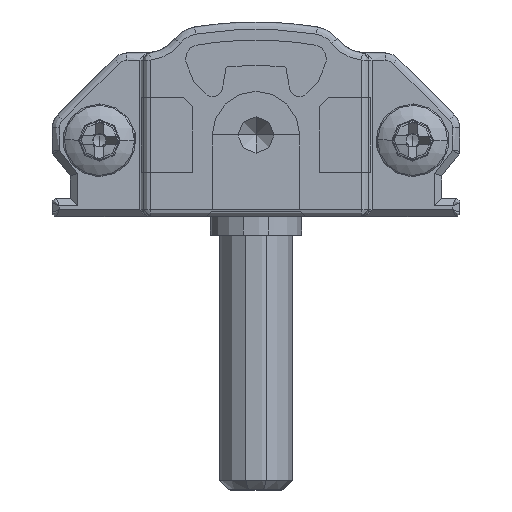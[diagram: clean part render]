
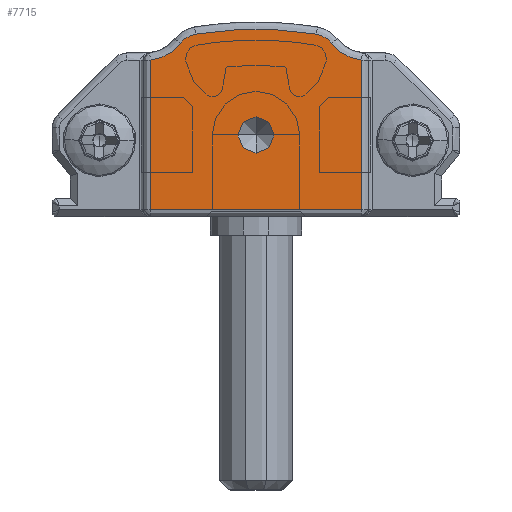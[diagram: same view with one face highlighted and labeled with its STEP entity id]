
A CAD part, front view. The second image highlights one B-rep face of the part: STEP entity #7715.
In plain terms, the highlighted planar face has unit normal (0, -1, 0).
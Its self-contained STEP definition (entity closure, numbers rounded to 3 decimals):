
#437 = CARTESIAN_POINT ( 'NONE',  ( 5.4, -15., 0.4 ) ) ;
#535 = ORIENTED_EDGE ( 'NONE', *, *, #30667, .T. ) ;
#1572 = EDGE_CURVE ( 'NONE', #2760, #27980, #26217, .T. ) ;
#1913 = EDGE_LOOP ( 'NONE', ( #20657, #30931 ) ) ;
#2151 = VECTOR ( 'NONE', #28954, 1000. ) ;
#2727 = DIRECTION ( 'NONE',  ( 0., -1., 0. ) ) ;
#2733 = EDGE_CURVE ( 'NONE', #27980, #28364, #6826, .T. ) ;
#2760 = VERTEX_POINT ( 'NONE', #4908 ) ;
#2876 = FACE_OUTER_BOUND ( 'NONE', #17453, .T. ) ;
#3728 = CARTESIAN_POINT ( 'NONE',  ( 7.892, -15., 10.034 ) ) ;
#4053 = ORIENTED_EDGE ( 'NONE', *, *, #1572, .T. ) ;
#4077 = CARTESIAN_POINT ( 'NONE',  ( 7.068, -15., 9.541 ) ) ;
#4169 = DIRECTION ( 'NONE',  ( 0., -1., 0. ) ) ;
#4331 = DIRECTION ( 'NONE',  ( 0., 0., -1. ) ) ;
#4908 = CARTESIAN_POINT ( 'NONE',  ( 15.332, -15., 9.541 ) ) ;
#5525 = AXIS2_PLACEMENT_3D ( 'NONE', #21096, #28495, #20929 ) ;
#6027 = VECTOR ( 'NONE', #17255, 1000. ) ;
#6067 = LINE ( 'NONE', #6230, #2151 ) ;
#6230 = CARTESIAN_POINT ( 'NONE',  ( 17., -15., 0.4 ) ) ;
#6277 = AXIS2_PLACEMENT_3D ( 'NONE', #32879, #30711, #17567 ) ;
#6790 = EDGE_CURVE ( 'NONE', #31085, #9806, #13581, .T. ) ;
#6826 = CIRCLE ( 'NONE', #32071, 20.676 ) ;
#7715 = ADVANCED_FACE ( 'NONE', ( #2876, #25927 ), #30978, .T. ) ;
#8150 = CARTESIAN_POINT ( 'NONE',  ( 17., -15., 8.612 ) ) ;
#8201 = CARTESIAN_POINT ( 'NONE',  ( 8.1, -15., 8.75 ) ) ;
#8208 = VERTEX_POINT ( 'NONE', #437 ) ;
#8239 = VERTEX_POINT ( 'NONE', #15551 ) ;
#9216 = DIRECTION ( 'NONE',  ( 0., 0., 1. ) ) ;
#9806 = VERTEX_POINT ( 'NONE', #25599 ) ;
#10142 = DIRECTION ( 'NONE',  ( 0., -1., 0. ) ) ;
#10907 = EDGE_CURVE ( 'NONE', #8208, #8239, #6067, .T. ) ;
#10971 = CARTESIAN_POINT ( 'NONE',  ( 14.508, -15., 10.034 ) ) ;
#11501 = CIRCLE ( 'NONE', #15244, 2.4 ) ;
#11644 = EDGE_CURVE ( 'NONE', #25903, #2760, #30497, .T. ) ;
#12325 = VERTEX_POINT ( 'NONE', #23864 ) ;
#12529 = DIRECTION ( 'NONE',  ( 0., 1., 0. ) ) ;
#12682 = DIRECTION ( 'NONE',  ( 0., 0., -1. ) ) ;
#13581 = CIRCLE ( 'NONE', #5525, 1. ) ;
#14550 = AXIS2_PLACEMENT_3D ( 'NONE', #8201, #15585, #18113 ) ;
#14598 = CARTESIAN_POINT ( 'NONE',  ( 11.2, -15., 3.5 ) ) ;
#14724 = ORIENTED_EDGE ( 'NONE', *, *, #28682, .T. ) ;
#15244 = AXIS2_PLACEMENT_3D ( 'NONE', #19917, #12529, #27348 ) ;
#15551 = CARTESIAN_POINT ( 'NONE',  ( 17., -15., 0.4 ) ) ;
#15585 = DIRECTION ( 'NONE',  ( 0., -1., 0. ) ) ;
#15664 = EDGE_CURVE ( 'NONE', #8239, #25903, #22166, .T. ) ;
#16389 = CARTESIAN_POINT ( 'NONE',  ( 14.3, -15., 8.75 ) ) ;
#16651 = ORIENTED_EDGE ( 'NONE', *, *, #29025, .T. ) ;
#17255 = DIRECTION ( 'NONE',  ( 0., 0., -1. ) ) ;
#17453 = EDGE_LOOP ( 'NONE', ( #28898, #32543, #4053, #18024, #14724, #535, #16651, #29132 ) ) ;
#17567 = DIRECTION ( 'NONE',  ( 0., 0., -1. ) ) ;
#18024 = ORIENTED_EDGE ( 'NONE', *, *, #2733, .T. ) ;
#18113 = DIRECTION ( 'NONE',  ( 0., 0., -1. ) ) ;
#19238 = DIRECTION ( 'NONE',  ( 0., -1., 0. ) ) ;
#19467 = LINE ( 'NONE', #32906, #6027 ) ;
#19917 = CARTESIAN_POINT ( 'NONE',  ( 5.162, -15., 11. ) ) ;
#20027 = CARTESIAN_POINT ( 'NONE',  ( 11.2, -15., -10.376 ) ) ;
#20657 = ORIENTED_EDGE ( 'NONE', *, *, #6790, .F. ) ;
#20929 = DIRECTION ( 'NONE',  ( 0., 0., -1. ) ) ;
#21096 = CARTESIAN_POINT ( 'NONE',  ( 11.2, -15., 4.5 ) ) ;
#21646 = CARTESIAN_POINT ( 'NONE',  ( 17., -15., 8.612 ) ) ;
#22166 = LINE ( 'NONE', #21646, #30318 ) ;
#22345 = VERTEX_POINT ( 'NONE', #4077 ) ;
#23387 = CARTESIAN_POINT ( 'NONE',  ( 22.15, -15., 3.606 ) ) ;
#23864 = CARTESIAN_POINT ( 'NONE',  ( 5.4, -15., 8.612 ) ) ;
#24123 = EDGE_CURVE ( 'NONE', #9806, #31085, #24480, .T. ) ;
#24397 = AXIS2_PLACEMENT_3D ( 'NONE', #23387, #10142, #25267 ) ;
#24480 = CIRCLE ( 'NONE', #24504, 1. ) ;
#24504 = AXIS2_PLACEMENT_3D ( 'NONE', #25440, #2727, #12682 ) ;
#25249 = DIRECTION ( 'NONE',  ( 0., 0., -1. ) ) ;
#25267 = DIRECTION ( 'NONE',  ( 0., 0., -1. ) ) ;
#25440 = CARTESIAN_POINT ( 'NONE',  ( 11.2, -15., 4.5 ) ) ;
#25599 = CARTESIAN_POINT ( 'NONE',  ( 11.2, -15., 5.5 ) ) ;
#25903 = VERTEX_POINT ( 'NONE', #8150 ) ;
#25927 = FACE_BOUND ( 'NONE', #1913, .T. ) ;
#26217 = CIRCLE ( 'NONE', #28347, 1.3 ) ;
#27348 = DIRECTION ( 'NONE',  ( 0., 0., -1. ) ) ;
#27980 = VERTEX_POINT ( 'NONE', #10971 ) ;
#28347 = AXIS2_PLACEMENT_3D ( 'NONE', #16389, #4169, #4331 ) ;
#28364 = VERTEX_POINT ( 'NONE', #3728 ) ;
#28495 = DIRECTION ( 'NONE',  ( 0., -1., 0. ) ) ;
#28682 = EDGE_CURVE ( 'NONE', #28364, #22345, #29027, .T. ) ;
#28898 = ORIENTED_EDGE ( 'NONE', *, *, #15664, .T. ) ;
#28954 = DIRECTION ( 'NONE',  ( 1., 0., 0. ) ) ;
#29025 = EDGE_CURVE ( 'NONE', #12325, #8208, #19467, .T. ) ;
#29027 = CIRCLE ( 'NONE', #14550, 1.3 ) ;
#29132 = ORIENTED_EDGE ( 'NONE', *, *, #10907, .T. ) ;
#30318 = VECTOR ( 'NONE', #9216, 1000. ) ;
#30497 = CIRCLE ( 'NONE', #6277, 2.4 ) ;
#30667 = EDGE_CURVE ( 'NONE', #22345, #12325, #11501, .T. ) ;
#30711 = DIRECTION ( 'NONE',  ( 0., 1., 0. ) ) ;
#30931 = ORIENTED_EDGE ( 'NONE', *, *, #24123, .F. ) ;
#30978 = PLANE ( 'NONE',  #24397 ) ;
#31085 = VERTEX_POINT ( 'NONE', #14598 ) ;
#32071 = AXIS2_PLACEMENT_3D ( 'NONE', #20027, #19238, #25249 ) ;
#32543 = ORIENTED_EDGE ( 'NONE', *, *, #11644, .T. ) ;
#32879 = CARTESIAN_POINT ( 'NONE',  ( 17.238, -15., 11. ) ) ;
#32906 = CARTESIAN_POINT ( 'NONE',  ( 5.4, -15., 0.4 ) ) ;
